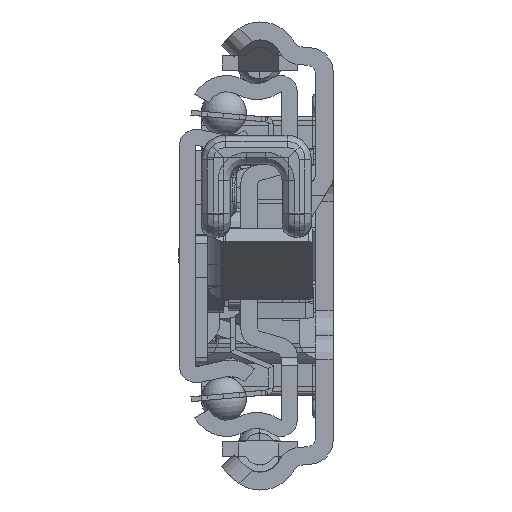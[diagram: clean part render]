
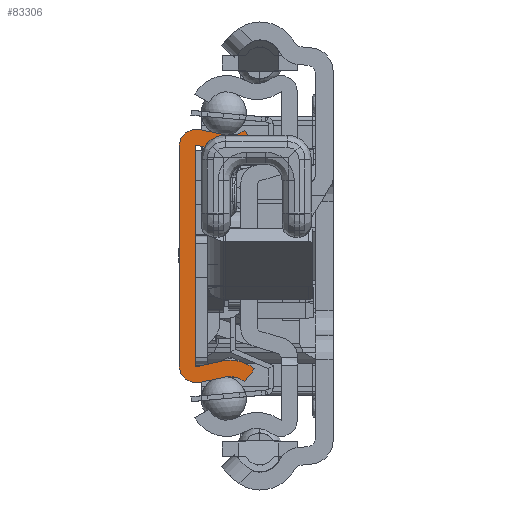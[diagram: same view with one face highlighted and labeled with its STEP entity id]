
A CAD part, left-side view. The second image highlights one B-rep face of the part: STEP entity #83306.
In plain terms, the highlighted planar face has unit normal (-1, 0, 0).
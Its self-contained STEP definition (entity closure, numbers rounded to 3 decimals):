
#77648=CARTESIAN_POINT('',(0.,-6.29,-17.65));
#77649=DIRECTION('',(-1.,0.,0.));
#77650=DIRECTION('',(0.,-0.629,0.778));
#77651=AXIS2_PLACEMENT_3D('',#77648,#77649,#77650);
#77653=DIRECTION('',(0.,0.977,-0.213));
#77654=VECTOR('',#77653,3.218);
#77655=CARTESIAN_POINT('',(0.,-5.692,-14.915));
#77656=LINE('',#77655,#77654);
#77657=CARTESIAN_POINT('',(0.,-2.1,-13.55));
#77658=DIRECTION('',(1.,0.,0.));
#77659=DIRECTION('',(0.,-0.213,-0.977));
#77660=AXIS2_PLACEMENT_3D('',#77657,#77658,#77659);
#77662=DIRECTION('',(0.,0.,1.));
#77663=VECTOR('',#77662,27.1);
#77664=CARTESIAN_POINT('',(0.,0.,-13.55));
#77665=LINE('',#77664,#77663);
#77666=CARTESIAN_POINT('',(0.,-2.1,13.55));
#77667=DIRECTION('',(1.,0.,0.));
#77668=DIRECTION('',(0.,1.,0.));
#77669=AXIS2_PLACEMENT_3D('',#77666,#77667,#77668);
#77671=DIRECTION('',(0.,-0.977,-0.213));
#77672=VECTOR('',#77671,3.218);
#77673=CARTESIAN_POINT('',(0.,-2.548,15.602));
#77674=LINE('',#77673,#77672);
#77675=CARTESIAN_POINT('',(0.,-6.29,17.65));
#77676=DIRECTION('',(-1.,0.,0.));
#77677=DIRECTION('',(0.,0.213,-0.977));
#77678=AXIS2_PLACEMENT_3D('',#77675,#77676,#77677);
#77680=DIRECTION('',(0.,-0.629,-0.778));
#77681=VECTOR('',#77680,2.);
#77682=CARTESIAN_POINT('',(0.,-8.05,15.472));
#77683=LINE('',#77682,#77681);
#77684=CARTESIAN_POINT('',(0.,-6.29,17.65));
#77685=DIRECTION('',(1.,0.,0.));
#77686=DIRECTION('',(0.,-0.629,-0.778));
#77687=AXIS2_PLACEMENT_3D('',#77684,#77685,#77686);
#77689=DIRECTION('',(0.,0.977,0.213));
#77690=VECTOR('',#77689,3.218);
#77691=CARTESIAN_POINT('',(0.,-5.265,12.961));
#77692=LINE('',#77691,#77690);
#77693=CARTESIAN_POINT('',(0.,-2.1,13.55));
#77694=DIRECTION('',(-1.,0.,0.));
#77695=DIRECTION('',(0.,-0.213,0.977));
#77696=AXIS2_PLACEMENT_3D('',#77693,#77694,#77695);
#77698=DIRECTION('',(0.,0.,-1.));
#77699=VECTOR('',#77698,27.1);
#77700=CARTESIAN_POINT('',(0.,-2.,13.55));
#77701=LINE('',#77700,#77699);
#77702=CARTESIAN_POINT('',(0.,-2.1,-13.55));
#77703=DIRECTION('',(-1.,0.,0.));
#77704=DIRECTION('',(0.,1.,0.));
#77705=AXIS2_PLACEMENT_3D('',#77702,#77703,#77704);
#77707=DIRECTION('',(0.,-0.977,0.213));
#77708=VECTOR('',#77707,3.218);
#77709=CARTESIAN_POINT('',(0.,-2.121,-13.648));
#77710=LINE('',#77709,#77708);
#77711=CARTESIAN_POINT('',(0.,-6.29,-17.65));
#77712=DIRECTION('',(1.,0.,0.));
#77713=DIRECTION('',(0.,0.213,0.977));
#77714=AXIS2_PLACEMENT_3D('',#77711,#77712,#77713);
#77716=DIRECTION('',(0.,0.629,-0.778));
#77717=VECTOR('',#77716,2.);
#77718=CARTESIAN_POINT('',(0.,-9.307,-13.917));
#77719=LINE('',#77718,#77717);
#82235=CARTESIAN_POINT('',(0.,-8.05,-15.472));
#82236=CARTESIAN_POINT('',(0.,-5.692,-14.915));
#82237=VERTEX_POINT('',#82235);
#82238=VERTEX_POINT('',#82236);
#82239=CARTESIAN_POINT('',(0.,-2.548,-15.602));
#82240=VERTEX_POINT('',#82239);
#82241=CARTESIAN_POINT('',(0.,0.,-13.55));
#82242=VERTEX_POINT('',#82241);
#82243=CARTESIAN_POINT('',(0.,0.,13.55));
#82244=VERTEX_POINT('',#82243);
#82245=CARTESIAN_POINT('',(0.,-2.548,15.602));
#82246=VERTEX_POINT('',#82245);
#82247=CARTESIAN_POINT('',(0.,-5.692,14.915));
#82248=VERTEX_POINT('',#82247);
#82249=CARTESIAN_POINT('',(0.,-8.05,15.472));
#82250=VERTEX_POINT('',#82249);
#82251=CARTESIAN_POINT('',(0.,-9.307,13.917));
#82252=VERTEX_POINT('',#82251);
#82253=CARTESIAN_POINT('',(0.,-5.265,12.961));
#82254=VERTEX_POINT('',#82253);
#82255=CARTESIAN_POINT('',(0.,-2.121,13.648));
#82256=VERTEX_POINT('',#82255);
#82257=CARTESIAN_POINT('',(0.,-2.,13.55));
#82258=VERTEX_POINT('',#82257);
#82259=CARTESIAN_POINT('',(0.,-2.,-13.55));
#82260=VERTEX_POINT('',#82259);
#82261=CARTESIAN_POINT('',(0.,-2.121,-13.648));
#82262=VERTEX_POINT('',#82261);
#82263=CARTESIAN_POINT('',(0.,-5.265,-12.961));
#82264=VERTEX_POINT('',#82263);
#82265=CARTESIAN_POINT('',(0.,-9.307,-13.917));
#82266=VERTEX_POINT('',#82265);
#83267=CARTESIAN_POINT('',(0.,0.,0.));
#83268=DIRECTION('',(1.,0.,0.));
#83269=DIRECTION('',(0.,-1.,0.));
#83270=AXIS2_PLACEMENT_3D('',#83267,#83268,#83269);
#83271=PLANE('',#83270);
#83273=ORIENTED_EDGE('',*,*,#83272,.T.);
#83275=ORIENTED_EDGE('',*,*,#83274,.T.);
#83277=ORIENTED_EDGE('',*,*,#83276,.T.);
#83279=ORIENTED_EDGE('',*,*,#83278,.T.);
#83281=ORIENTED_EDGE('',*,*,#83280,.T.);
#83283=ORIENTED_EDGE('',*,*,#83282,.T.);
#83285=ORIENTED_EDGE('',*,*,#83284,.T.);
#83287=ORIENTED_EDGE('',*,*,#83286,.T.);
#83289=ORIENTED_EDGE('',*,*,#83288,.T.);
#83291=ORIENTED_EDGE('',*,*,#83290,.T.);
#83293=ORIENTED_EDGE('',*,*,#83292,.T.);
#83295=ORIENTED_EDGE('',*,*,#83294,.T.);
#83297=ORIENTED_EDGE('',*,*,#83296,.T.);
#83299=ORIENTED_EDGE('',*,*,#83298,.T.);
#83301=ORIENTED_EDGE('',*,*,#83300,.T.);
#83303=ORIENTED_EDGE('',*,*,#83302,.T.);
#83304=EDGE_LOOP('',(#83273,#83275,#83277,#83279,#83281,#83283,#83285,#83287,
#83289,#83291,#83293,#83295,#83297,#83299,#83301,#83303));
#83305=FACE_OUTER_BOUND('',#83304,.F.);
#77652=CIRCLE('',#77651,2.8);
#77661=CIRCLE('',#77660,2.1);
#77670=CIRCLE('',#77669,2.1);
#77679=CIRCLE('',#77678,2.8);
#77688=CIRCLE('',#77687,4.8);
#77697=CIRCLE('',#77696,0.1);
#77706=CIRCLE('',#77705,0.1);
#77715=CIRCLE('',#77714,4.8);
#83272=EDGE_CURVE('',#82237,#82238,#77652,.T.);
#83274=EDGE_CURVE('',#82238,#82240,#77656,.T.);
#83276=EDGE_CURVE('',#82240,#82242,#77661,.T.);
#83278=EDGE_CURVE('',#82242,#82244,#77665,.T.);
#83280=EDGE_CURVE('',#82244,#82246,#77670,.T.);
#83282=EDGE_CURVE('',#82246,#82248,#77674,.T.);
#83284=EDGE_CURVE('',#82248,#82250,#77679,.T.);
#83286=EDGE_CURVE('',#82250,#82252,#77683,.T.);
#83288=EDGE_CURVE('',#82252,#82254,#77688,.T.);
#83290=EDGE_CURVE('',#82254,#82256,#77692,.T.);
#83292=EDGE_CURVE('',#82256,#82258,#77697,.T.);
#83294=EDGE_CURVE('',#82258,#82260,#77701,.T.);
#83296=EDGE_CURVE('',#82260,#82262,#77706,.T.);
#83298=EDGE_CURVE('',#82262,#82264,#77710,.T.);
#83300=EDGE_CURVE('',#82264,#82266,#77715,.T.);
#83302=EDGE_CURVE('',#82266,#82237,#77719,.T.);
#83306=ADVANCED_FACE('',(#83305),#83271,.F.);
